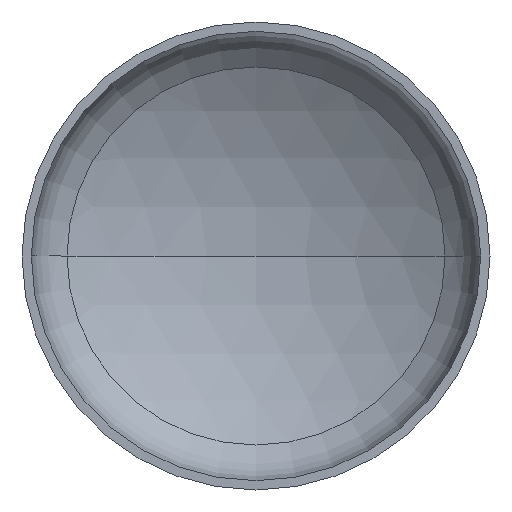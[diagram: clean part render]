
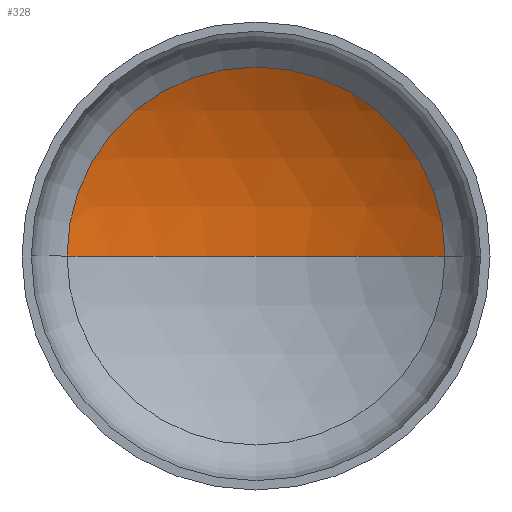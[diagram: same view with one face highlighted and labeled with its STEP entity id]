
A CAD part, front view. The second image highlights one B-rep face of the part: STEP entity #328.
In plain terms, the highlighted spherical face has radius 2240 mm.
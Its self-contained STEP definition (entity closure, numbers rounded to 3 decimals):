
#3 = AXIS2_PLACEMENT_3D ( 'NONE', #345, #347, #197 ) ;
#10 = AXIS2_PLACEMENT_3D ( 'NONE', #146, #154, #122 ) ;
#20 = AXIS2_PLACEMENT_3D ( 'NONE', #232, #172, #311 ) ;
#24 = AXIS2_PLACEMENT_3D ( 'NONE', #180, #45, #128 ) ;
#25 = EDGE_LOOP ( 'NONE', ( #60, #111, #46 ) ) ;
#30 = VERTEX_POINT ( 'NONE', #279 ) ;
#45 = DIRECTION ( 'NONE',  ( 0., 0., -1. ) ) ;
#46 = ORIENTED_EDGE ( 'NONE', *, *, #350, .T. ) ;
#60 = ORIENTED_EDGE ( 'NONE', *, *, #362, .F. ) ;
#86 = VERTEX_POINT ( 'NONE', #224 ) ;
#111 = ORIENTED_EDGE ( 'NONE', *, *, #382, .T. ) ;
#114 = VERTEX_POINT ( 'NONE', #213 ) ;
#122 = DIRECTION ( 'NONE',  ( 1., 0., 0. ) ) ;
#128 = DIRECTION ( 'NONE',  ( -1., 0., 0. ) ) ;
#146 = CARTESIAN_POINT ( 'NONE',  ( 0., -1442.275, 0. ) ) ;
#154 = DIRECTION ( 'NONE',  ( 0., 0., 1. ) ) ;
#172 = DIRECTION ( 'NONE',  ( 0., -1., 0. ) ) ;
#180 = CARTESIAN_POINT ( 'NONE',  ( 0., -1442.275, 0. ) ) ;
#197 = DIRECTION ( 'NONE',  ( -1., 0., 0. ) ) ;
#201 = CIRCLE ( 'NONE', #3, 2240. ) ;
#213 = CARTESIAN_POINT ( 'NONE',  ( 1131.138, 491.148, 0. ) ) ;
#221 = CIRCLE ( 'NONE', #20, 1131.138 ) ;
#224 = CARTESIAN_POINT ( 'NONE',  ( -1131.138, 491.148, 0. ) ) ;
#232 = CARTESIAN_POINT ( 'NONE',  ( 0., 491.148, 0. ) ) ;
#279 = CARTESIAN_POINT ( 'NONE',  ( 0., 797.725, 0. ) ) ;
#311 = DIRECTION ( 'NONE',  ( 1., 0., 0. ) ) ;
#328 = ADVANCED_FACE ( 'NONE', ( #355 ), #402, .F. ) ;
#345 = CARTESIAN_POINT ( 'NONE',  ( 0., -1442.275, 0. ) ) ;
#347 = DIRECTION ( 'NONE',  ( 0., 0., -1. ) ) ;
#350 = EDGE_CURVE ( 'NONE', #114, #86, #221, .T. ) ;
#355 = FACE_OUTER_BOUND ( 'NONE', #25, .T. ) ;
#362 = EDGE_CURVE ( 'NONE', #30, #86, #392, .T. ) ;
#382 = EDGE_CURVE ( 'NONE', #30, #114, #201, .T. ) ;
#392 = CIRCLE ( 'NONE', #10, 2240. ) ;
#402 = SPHERICAL_SURFACE ( 'NONE', #24, 2240. ) ;
